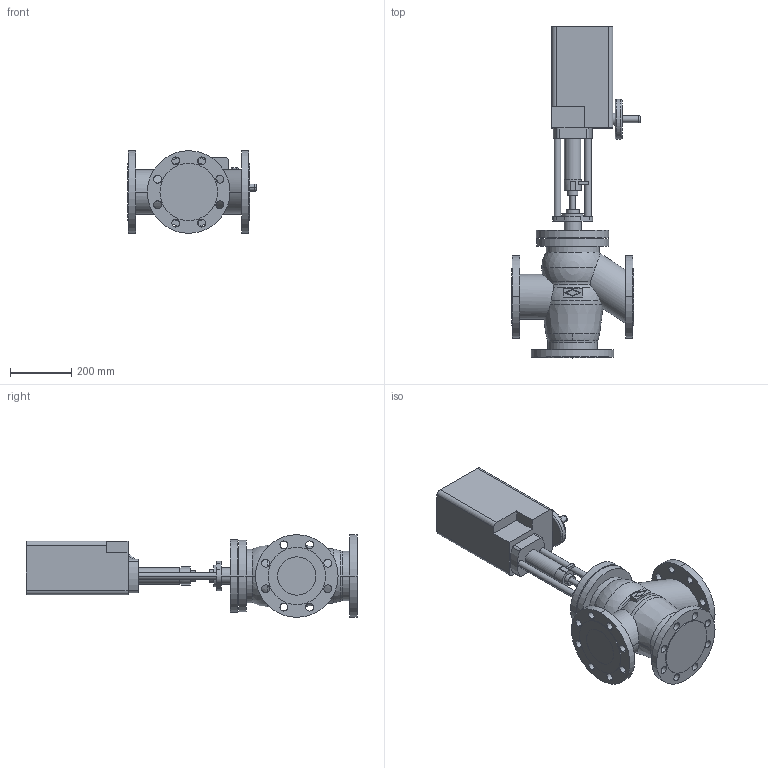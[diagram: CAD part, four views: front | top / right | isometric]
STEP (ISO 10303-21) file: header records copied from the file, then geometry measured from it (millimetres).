
FILE_DESCRIPTION(('OneSpaceDesigner STEP Export'),'2;1');
FILE_NAME('c000002424.stp','2006-09-19T12:10:49',(''),(''),'OneSpace Designer STEP processor for AP214 (Solid Model)','OneSpace Designer 13.20A 18-Aug-2005 (C) CoCreate Software GmbH','');
FILE_SCHEMA(('AUTOMOTIVE_DESIGN { 1 0 10303 214 1 1 1 1 }'));
Length unit declared in the file: millimetre
Products named in the file (2): 1; 2
Bounding box: 421.6 x 1085.5 x 270 mm (x, y, z)
Volume: 31609884.7 mm3; surface area: 1238772.9 mm2
Topology: 2 solids, 2 shells, 222 faces, 565 edges, 370 vertices
Faces by surface type: cylinder 116, plane 82, torus 14, sphere 8, cone 2
Entity records: 6237 total; most frequent: CARTESIAN_POINT 1278, ORIENTED_EDGE 1114, DIRECTION 897, EDGE_CURVE 557, VERTEX_POINT 370, AXIS2_PLACEMENT_3D 330, EDGE_LOOP 301, VECTOR 237
